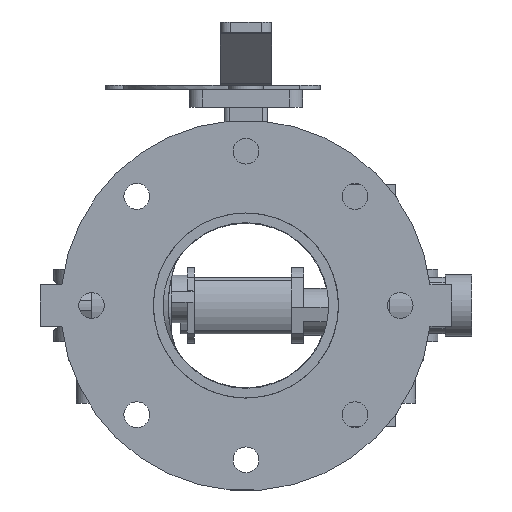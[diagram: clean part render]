
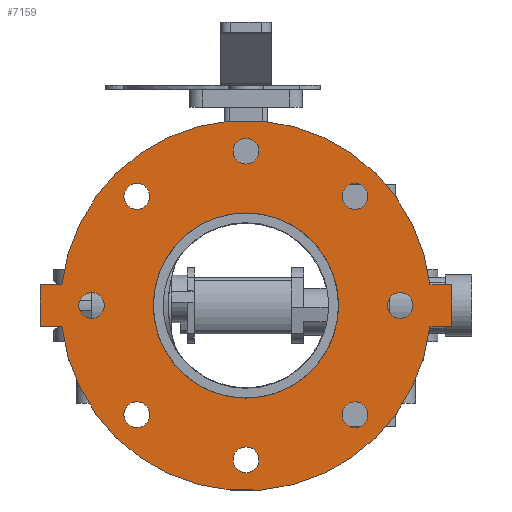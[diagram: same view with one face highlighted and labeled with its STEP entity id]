
A CAD part, front view. The second image highlights one B-rep face of the part: STEP entity #7159.
In plain terms, the highlighted planar face has unit normal (0, -1, 0) as drawn and (0, 0, -1) by its records, which use the part's own axes.
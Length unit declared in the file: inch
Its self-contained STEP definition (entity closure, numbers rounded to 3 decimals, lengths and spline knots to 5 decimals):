
#156=FACE_BOUND('',#878,.T.);
#157=FACE_BOUND('',#879,.T.);
#158=FACE_BOUND('',#880,.T.);
#159=FACE_BOUND('',#881,.T.);
#160=FACE_BOUND('',#882,.T.);
#161=FACE_BOUND('',#883,.T.);
#162=FACE_BOUND('',#884,.T.);
#163=FACE_BOUND('',#885,.T.);
#164=FACE_BOUND('',#886,.T.);
#247=PLANE('',#7749);
#482=FACE_OUTER_BOUND('',#877,.T.);
#877=EDGE_LOOP('',(#4595,#4596,#4597,#4598,#4599,#4600,#4601,#4602));
#878=EDGE_LOOP('',(#4603));
#879=EDGE_LOOP('',(#4604));
#880=EDGE_LOOP('',(#4605));
#881=EDGE_LOOP('',(#4606));
#882=EDGE_LOOP('',(#4607));
#883=EDGE_LOOP('',(#4608));
#884=EDGE_LOOP('',(#4609));
#885=EDGE_LOOP('',(#4610));
#886=EDGE_LOOP('',(#4611,#4612));
#1363=LINE('',#10841,#1915);
#1364=LINE('',#10843,#1916);
#1365=LINE('',#10845,#1917);
#1366=LINE('',#10849,#1918);
#1367=LINE('',#10851,#1919);
#1368=LINE('',#10852,#1920);
#1915=VECTOR('',#8624,0.3937);
#1916=VECTOR('',#8625,0.3937);
#1917=VECTOR('',#8626,0.3937);
#1918=VECTOR('',#8629,0.3937);
#1919=VECTOR('',#8630,0.3937);
#1920=VECTOR('',#8631,0.3937);
#2460=CIRCLE('',#7727,0.3125);
#2462=CIRCLE('',#7730,0.3125);
#2464=CIRCLE('',#7733,0.3125);
#2466=CIRCLE('',#7736,0.3125);
#2468=CIRCLE('',#7739,0.3125);
#2470=CIRCLE('',#7742,0.3125);
#2472=CIRCLE('',#7745,0.3125);
#2474=CIRCLE('',#7748,0.3125);
#2475=CIRCLE('',#7750,4.5);
#2476=CIRCLE('',#7751,4.5);
#2477=CIRCLE('',#7752,2.25);
#2478=CIRCLE('',#7753,2.25);
#2862=VERTEX_POINT('',#10791);
#2864=VERTEX_POINT('',#10797);
#2866=VERTEX_POINT('',#10803);
#2868=VERTEX_POINT('',#10809);
#2870=VERTEX_POINT('',#10815);
#2872=VERTEX_POINT('',#10821);
#2874=VERTEX_POINT('',#10827);
#2876=VERTEX_POINT('',#10833);
#2877=VERTEX_POINT('',#10837);
#2878=VERTEX_POINT('',#10838);
#2879=VERTEX_POINT('',#10840);
#2880=VERTEX_POINT('',#10842);
#2881=VERTEX_POINT('',#10844);
#2882=VERTEX_POINT('',#10846);
#2883=VERTEX_POINT('',#10848);
#2884=VERTEX_POINT('',#10850);
#2885=VERTEX_POINT('',#10853);
#2886=VERTEX_POINT('',#10854);
#3544=EDGE_CURVE('',#2862,#2862,#2460,.T.);
#3547=EDGE_CURVE('',#2864,#2864,#2462,.T.);
#3550=EDGE_CURVE('',#2866,#2866,#2464,.T.);
#3553=EDGE_CURVE('',#2868,#2868,#2466,.T.);
#3556=EDGE_CURVE('',#2870,#2870,#2468,.T.);
#3559=EDGE_CURVE('',#2872,#2872,#2470,.T.);
#3562=EDGE_CURVE('',#2874,#2874,#2472,.T.);
#3565=EDGE_CURVE('',#2876,#2876,#2474,.T.);
#3566=EDGE_CURVE('',#2877,#2878,#2475,.T.);
#3567=EDGE_CURVE('',#2878,#2879,#1363,.T.);
#3568=EDGE_CURVE('',#2879,#2880,#1364,.T.);
#3569=EDGE_CURVE('',#2880,#2881,#1365,.T.);
#3570=EDGE_CURVE('',#2881,#2882,#2476,.T.);
#3571=EDGE_CURVE('',#2882,#2883,#1366,.T.);
#3572=EDGE_CURVE('',#2883,#2884,#1367,.T.);
#3573=EDGE_CURVE('',#2884,#2877,#1368,.T.);
#3574=EDGE_CURVE('',#2885,#2886,#2477,.T.);
#3575=EDGE_CURVE('',#2886,#2885,#2478,.T.);
#4595=ORIENTED_EDGE('',*,*,#3566,.T.);
#4596=ORIENTED_EDGE('',*,*,#3567,.T.);
#4597=ORIENTED_EDGE('',*,*,#3568,.T.);
#4598=ORIENTED_EDGE('',*,*,#3569,.T.);
#4599=ORIENTED_EDGE('',*,*,#3570,.T.);
#4600=ORIENTED_EDGE('',*,*,#3571,.T.);
#4601=ORIENTED_EDGE('',*,*,#3572,.T.);
#4602=ORIENTED_EDGE('',*,*,#3573,.T.);
#4603=ORIENTED_EDGE('',*,*,#3544,.T.);
#4604=ORIENTED_EDGE('',*,*,#3547,.T.);
#4605=ORIENTED_EDGE('',*,*,#3550,.T.);
#4606=ORIENTED_EDGE('',*,*,#3553,.T.);
#4607=ORIENTED_EDGE('',*,*,#3556,.T.);
#4608=ORIENTED_EDGE('',*,*,#3559,.T.);
#4609=ORIENTED_EDGE('',*,*,#3562,.T.);
#4610=ORIENTED_EDGE('',*,*,#3565,.T.);
#4611=ORIENTED_EDGE('',*,*,#3574,.T.);
#4612=ORIENTED_EDGE('',*,*,#3575,.T.);
#7159=ADVANCED_FACE('',(#482,#156,#157,#158,#159,#160,#161,#162,#163,#164),
#247,.T.);
#7727=AXIS2_PLACEMENT_3D('',#10793,#8569,#8570);
#7730=AXIS2_PLACEMENT_3D('',#10799,#8576,#8577);
#7733=AXIS2_PLACEMENT_3D('',#10805,#8583,#8584);
#7736=AXIS2_PLACEMENT_3D('',#10811,#8590,#8591);
#7739=AXIS2_PLACEMENT_3D('',#10817,#8597,#8598);
#7742=AXIS2_PLACEMENT_3D('',#10823,#8604,#8605);
#7745=AXIS2_PLACEMENT_3D('',#10829,#8611,#8612);
#7748=AXIS2_PLACEMENT_3D('',#10835,#8618,#8619);
#7749=AXIS2_PLACEMENT_3D('',#10836,#8620,#8621);
#7750=AXIS2_PLACEMENT_3D('',#10839,#8622,#8623);
#7751=AXIS2_PLACEMENT_3D('',#10847,#8627,#8628);
#7752=AXIS2_PLACEMENT_3D('',#10855,#8632,#8633);
#7753=AXIS2_PLACEMENT_3D('',#10856,#8634,#8635);
#8569=DIRECTION('center_axis',(0.,0.,1.));
#8570=DIRECTION('ref_axis',(-0.707,0.707,0.));
#8576=DIRECTION('center_axis',(0.,0.,1.));
#8577=DIRECTION('ref_axis',(0.,1.,0.));
#8583=DIRECTION('center_axis',(0.,0.,1.));
#8584=DIRECTION('ref_axis',(0.707,0.707,0.));
#8590=DIRECTION('center_axis',(0.,0.,1.));
#8591=DIRECTION('ref_axis',(1.,0.,0.));
#8597=DIRECTION('center_axis',(0.,0.,1.));
#8598=DIRECTION('ref_axis',(0.707,-0.707,0.));
#8604=DIRECTION('center_axis',(0.,0.,1.));
#8605=DIRECTION('ref_axis',(0.,-1.,0.));
#8611=DIRECTION('center_axis',(0.,0.,1.));
#8612=DIRECTION('ref_axis',(-0.707,-0.707,0.));
#8618=DIRECTION('center_axis',(0.,0.,1.));
#8619=DIRECTION('ref_axis',(-1.,0.,0.));
#8620=DIRECTION('center_axis',(0.,0.,-1.));
#8621=DIRECTION('ref_axis',(-1.,0.,0.));
#8622=DIRECTION('center_axis',(0.,0.,-1.));
#8623=DIRECTION('ref_axis',(-1.,0.,0.));
#8624=DIRECTION('',(0.,1.,0.));
#8625=DIRECTION('',(1.,0.,0.));
#8626=DIRECTION('',(0.,-1.,0.));
#8627=DIRECTION('center_axis',(0.,0.,-1.));
#8628=DIRECTION('ref_axis',(-1.,0.,0.));
#8629=DIRECTION('',(0.,-1.,0.));
#8630=DIRECTION('',(-1.,0.,0.));
#8631=DIRECTION('',(0.,1.,0.));
#8632=DIRECTION('center_axis',(0.,0.,1.));
#8633=DIRECTION('ref_axis',(-1.,0.,0.));
#8634=DIRECTION('center_axis',(0.,0.,1.));
#8635=DIRECTION('ref_axis',(-1.,0.,0.));
#10791=CARTESIAN_POINT('',(-2.43068,2.43068,-0.5));
#10793=CARTESIAN_POINT('Origin',(-2.65165,2.65165,-0.5));
#10797=CARTESIAN_POINT('',(0.,3.4375,-0.5));
#10799=CARTESIAN_POINT('Origin',(0.,3.75,-0.5));
#10803=CARTESIAN_POINT('',(2.43068,2.43068,-0.5));
#10805=CARTESIAN_POINT('Origin',(2.65165,2.65165,-0.5));
#10809=CARTESIAN_POINT('',(3.4375,0.,-0.5));
#10811=CARTESIAN_POINT('Origin',(3.75,0.,-0.5));
#10815=CARTESIAN_POINT('',(2.43068,-2.43068,-0.5));
#10817=CARTESIAN_POINT('Origin',(2.65165,-2.65165,-0.5));
#10821=CARTESIAN_POINT('',(0.,-3.4375,-0.5));
#10823=CARTESIAN_POINT('Origin',(0.,-3.75,-0.5));
#10827=CARTESIAN_POINT('',(-2.43068,-2.43068,-0.5));
#10829=CARTESIAN_POINT('Origin',(-2.65165,-2.65165,-0.5));
#10833=CARTESIAN_POINT('',(-3.4375,0.,-0.5));
#10835=CARTESIAN_POINT('Origin',(-3.75,0.,-0.5));
#10836=CARTESIAN_POINT('Origin',(0.,0.,-0.5));
#10837=CARTESIAN_POINT('',(-0.5,-4.47214,-0.5));
#10838=CARTESIAN_POINT('',(-0.5,4.47214,-0.5));
#10839=CARTESIAN_POINT('Origin',(0.,0.,-0.5));
#10840=CARTESIAN_POINT('',(-0.5,5.,-0.5));
#10841=CARTESIAN_POINT('',(-0.5,-5.,-0.5));
#10842=CARTESIAN_POINT('',(0.5,5.,-0.5));
#10843=CARTESIAN_POINT('',(-0.5,5.,-0.5));
#10844=CARTESIAN_POINT('',(0.5,4.47214,-0.5));
#10845=CARTESIAN_POINT('',(0.5,5.,-0.5));
#10846=CARTESIAN_POINT('',(0.5,-4.47214,-0.5));
#10847=CARTESIAN_POINT('Origin',(0.,0.,-0.5));
#10848=CARTESIAN_POINT('',(0.5,-5.,-0.5));
#10849=CARTESIAN_POINT('',(0.5,5.,-0.5));
#10850=CARTESIAN_POINT('',(-0.5,-5.,-0.5));
#10851=CARTESIAN_POINT('',(0.5,-5.,-0.5));
#10852=CARTESIAN_POINT('',(-0.5,-5.,-0.5));
#10853=CARTESIAN_POINT('',(0.5,2.19374,-0.5));
#10854=CARTESIAN_POINT('',(2.25,0.,-0.5));
#10855=CARTESIAN_POINT('Origin',(0.,0.,-0.5));
#10856=CARTESIAN_POINT('Origin',(0.,0.,-0.5));
